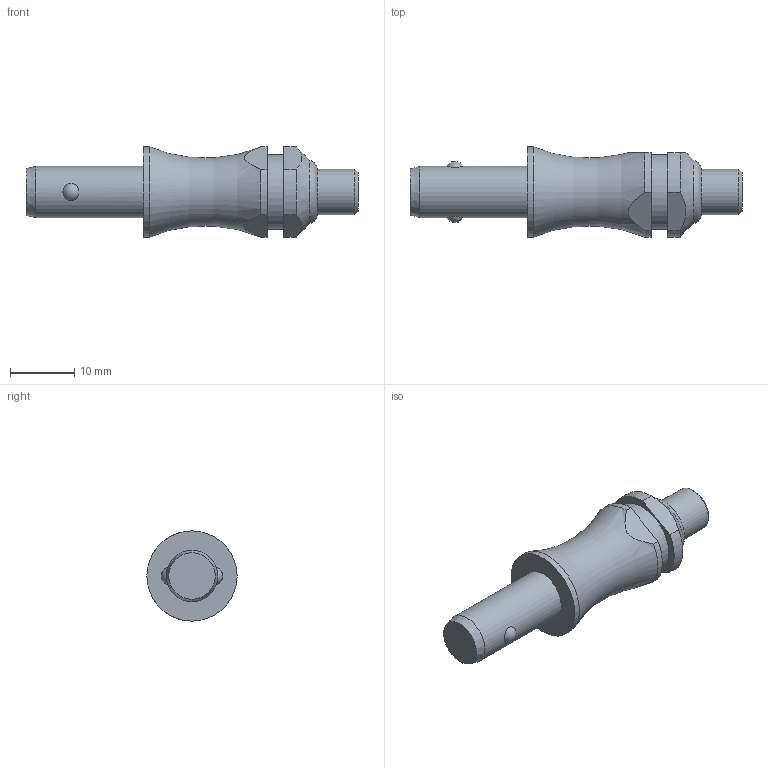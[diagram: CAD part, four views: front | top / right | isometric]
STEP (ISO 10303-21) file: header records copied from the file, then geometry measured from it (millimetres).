
FILE_DESCRIPTION( ( 'STEP AP203' ), '1' );
FILE_NAME( 'C:/Temp/Ganter_Step_05_03_2020/data/3_1/gn113_3/Stainless Steel-Ball lock pin GN 113.3-8-10 (deactivated).stp', '2020-03-12T08:18:21', ( 'License CC BY-ND 4.0' ), ( 'CADENAS' ), ' ', 'PARTsolutions', ' ' );
FILE_SCHEMA( ( 'CONFIG_CONTROL_DESIGN' ) );
Length unit declared in the file: millimetre
Products named in the file (1): _Stainless Steel-Ball lock pin GN 113.3-8-10 (deactivated)
Bounding box: 51.5 x 14 x 14 mm (x, y, z)
Volume: 4134.6 mm3; surface area: 1914.7 mm2
Topology: 1 solids, 1 shells, 28 faces, 60 edges, 39 vertices
Faces by surface type: plane 11, cylinder 10, cone 3, torus 2, sphere 2
Full cylindrical faces by diameter (mm): 7 x1, 8 x1, 11.6 x1, 14 x1
Entity records: 916 total; most frequent: CARTESIAN_POINT 303, DIRECTION 122, ORIENTED_EDGE 98, AXIS2_PLACEMENT_3D 52, EDGE_CURVE 49, EDGE_LOOP 42, VERTEX_POINT 37, FACE_OUTER_BOUND 34
